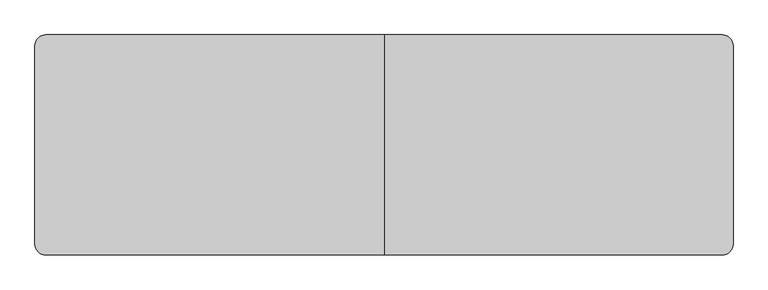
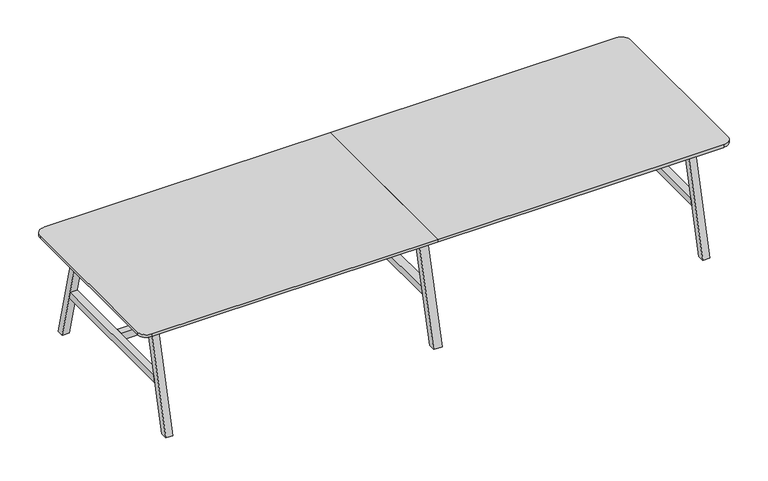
"""IFC4 building model written with IfcOpenShell, lengths in millimetres: furniture geometry, BDG_BossDesign_Tbls_AgentTables6Legs : AGE-DT-6L-3800-1200-3D."""

from ifc_helpers import new_model, si_unit, point, frame, frame_2d, origin, place, context, project, spatial, polyline, circle_curve, trimmed, segment, composite_curve, outline, extrude, source, transform, mapped, element, save


def furniture_34c553e8(model_context):
    return source(origin(), model_context, "Body", "SweptSolid", [
        extrude(outline(polyline([(600.0, 0.0), (554.9999949, 0.0), (385.5, 660.0), (430.5000051, 660.0), (600.0, 0.0)])), frame((-27.5, 0.0, 0.0), z_axis=(1.0, 0.0, 0.0), x_axis=(0.0, 1.0, 0.0)), (0.0, 0.0, 1.0), 55.0),
        extrude(outline(polyline([(-600.0, 0.0), (-430.5000051, 660.0), (-385.5, 660.0), (-554.9999949, 0.0), (-600.0, 0.0)])), frame((-27.5, 0.0, 0.0), z_axis=(1.0, 0.0, 0.0), x_axis=(0.0, 1.0, 0.0)), (0.0, 0.0, 1.0), 55.0),
        extrude(outline(polyline([(477.9545427, 300.0), (-477.9545427, 300.0), (-466.3977249, 345.0), (466.3977249, 345.0), (477.9545427, 300.0)])), frame((-27.5, 0.0, 0.0), z_axis=(1.0, 0.0, 0.0), x_axis=(0.0, 1.0, 0.0)), (0.0, 0.0, 1.0), 55.0),
        extrude(outline(composite_curve([segment(polyline([(0.0, 600.0), (0.0, -600.0), (-1840.0, -600.0)]), True, "CONTINUOUS"), segment(trimmed(circle_curve(frame_2d((-1840.0, -540.0)), 60.0), [point((-1840.0, -600.0))], [point((-1900.0, -540.0))], False, "CARTESIAN"), True, "CONTINUOUS"), segment(polyline([(-1900.0, -540.0), (-1900.0, 540.0)]), True, "CONTINUOUS"), segment(trimmed(circle_curve(frame_2d((-1840.0, 540.0)), 60.0), [point((-1900.0, 540.0))], [point((-1840.0, 600.0))], False, "CARTESIAN"), True, "CONTINUOUS"), segment(polyline([(-1840.0, 600.0), (0.0, 600.0)]), True, "CONTINUOUS")], self_intersect=False)), frame((0.0, 0.0, 722.0), z_axis=(0.0, 0.0, 1.0), x_axis=(1.0, 0.0, 0.0)), (0.0, 0.0, 1.0), 18.0),
        extrude(outline(polyline([(-466.3977249, 345.0), (466.3977249, 345.0), (477.9545427, 300.0), (-477.9545427, 300.0), (-466.3977249, 345.0)])), frame((1705.0, 0.0, 0.0), z_axis=(1.0, 0.0, 0.0), x_axis=(0.0, 1.0, 0.0)), (0.0, 0.0, 1.0), 45.0),
        extrude(outline(polyline([(600.0, 0.0), (554.9999949, 0.0), (385.5, 660.0), (430.5000051, 660.0), (600.0, 0.0)])), frame((-1750.0, 0.0, 0.0), z_axis=(1.0, 0.0, 0.0), x_axis=(0.0, 1.0, 0.0)), (0.0, 0.0, 1.0), 45.0),
        extrude(outline(polyline([(-600.0, 0.0), (-430.5000051, 660.0), (-385.5, 660.0), (-554.9999949, 0.0), (-600.0, 0.0)])), frame((-1750.0, 0.0, 0.0), z_axis=(1.0, 0.0, 0.0), x_axis=(0.0, 1.0, 0.0)), (0.0, 0.0, 1.0), 45.0),
        extrude(outline(polyline([(-466.3977249, 345.0), (466.3977249, 345.0), (477.9545427, 300.0), (-477.9545427, 300.0), (-466.3977249, 345.0)])), frame((-1750.0, 0.0, 0.0), z_axis=(1.0, 0.0, 0.0), x_axis=(0.0, 1.0, 0.0)), (0.0, 0.0, 1.0), 45.0),
        extrude(outline(polyline([(-426.6006165, 634.973938), (-404.2770691, 722.0), (-379.5, 722.0), (-401.8235474, 634.973938), (-426.6006165, 634.973938)])), frame((-1705.0, 0.0, 0.0), z_axis=(1.0, 0.0, 0.0), x_axis=(0.0, 1.0, 0.0)), (0.0, 0.0, 1.0), 3410.0),
        extrude(outline(polyline([(426.6006165, 634.973938), (401.8235474, 634.973938), (379.5, 722.0), (404.2770691, 722.0), (426.6006165, 634.973938)])), frame((-1705.0, 0.0, 0.0), z_axis=(1.0, 0.0, 0.0), x_axis=(0.0, 1.0, 0.0)), (0.0, 0.0, 1.0), 3410.0),
        extrude(outline(polyline([(599.7999878, 0.0), (554.7999827, 0.0), (385.5, 660.0), (430.5000051, 660.0), (599.7999878, 0.0)])), frame((1705.0, 0.0, 0.0), z_axis=(1.0, 0.0, 0.0), x_axis=(0.0, 1.0, 0.0)), (0.0, 0.0, 1.0), 45.0),
        extrude(outline(polyline([(-599.7999878, 0.0), (-430.5000051, 660.0), (-385.5, 660.0), (-554.7999827, 0.0), (-599.7999878, 0.0)])), frame((1705.0, 0.0, 0.0), z_axis=(1.0, 0.0, 0.0), x_axis=(0.0, 1.0, 0.0)), (0.0, 0.0, 1.0), 45.0),
        extrude(outline(polyline([(-27.5, 22.5000305), (-27.5, -22.5000305), (-1705.0, -22.5000305), (-1705.0, 22.5000305), (-27.5, 22.5000305)])), frame((0.0, 0.0, 300.0), z_axis=(0.0, 0.0, 1.0), x_axis=(1.0, 0.0, 0.0)), (0.0, 0.0, 1.0), 45.0),
        extrude(outline(polyline([(27.5, -22.5000305), (27.5, 22.5000305), (1705.0, 22.5000305), (1705.0, -22.5000305), (27.5, -22.5000305)])), frame((0.0, 0.0, 300.0), z_axis=(0.0, 0.0, 1.0), x_axis=(1.0, 0.0, 0.0)), (0.0, 0.0, 1.0), 45.0),
        extrude(outline(composite_curve([segment(trimmed(circle_curve(frame_2d((1840.0, 540.0)), 60.0), [point((1840.0, 600.0))], [point((1900.0, 540.0))], False, "CARTESIAN"), True, "CONTINUOUS"), segment(polyline([(1900.0, 540.0), (1900.0, -540.0)]), True, "CONTINUOUS"), segment(trimmed(circle_curve(frame_2d((1840.0, -540.0)), 60.0), [point((1900.0, -540.0))], [point((1840.0, -600.0))], False, "CARTESIAN"), True, "CONTINUOUS"), segment(polyline([(1840.0, -600.0), (0.0, -600.0), (0.0, 600.0), (1840.0, 600.0)]), True, "CONTINUOUS")], self_intersect=False)), frame((0.0, 0.0, 722.0), z_axis=(0.0, 0.0, 1.0), x_axis=(1.0, 0.0, 0.0)), (0.0, 0.0, 1.0), 18.0),
    ])


if __name__ == "__main__":
    model = new_model("IFC4")
    model_context = context("Model", 3, world=origin())
    ifc_project = project(units=[si_unit("LENGTHUNIT", "METRE", prefix="MILLI")], contexts=[model_context])
    site = spatial("IfcSite", under=ifc_project)
    building = spatial("IfcBuilding", under=site)
    placement = place(None, origin())
    furniture_shape = furniture_34c553e8(model_context)
    element("IfcFurniture", 1, ObjectType="BDG_BossDesign_Tbls_AgentTables6Legs : AGE-DT-6L-3800-1200-3D", at=placement, inside=building, context=model_context, shape_type="MappedRepresentation", body=[
        mapped(furniture_shape, transform((0.0, 0.0, 0.0), x_axis=(1.0, 0.0, 0.0), y_axis=(0.0, 1.0, 0.0), z_axis=(0.0, 0.0, 1.0))),
    ])
    save(model, "model.ifc")
